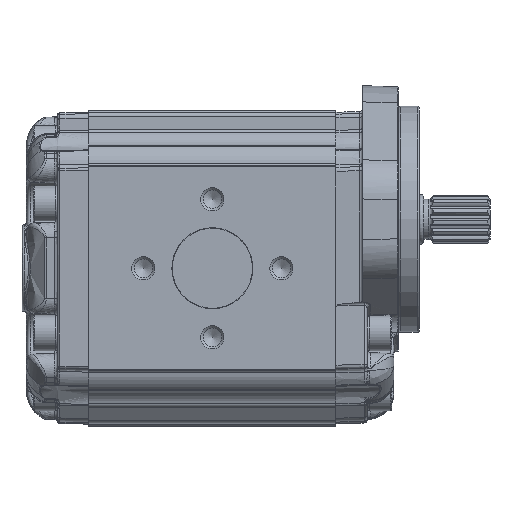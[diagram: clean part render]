
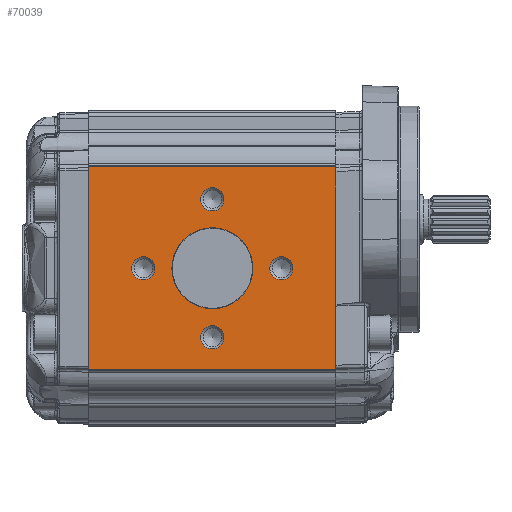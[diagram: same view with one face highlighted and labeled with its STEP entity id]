
A CAD part, left-side view. The second image highlights one B-rep face of the part: STEP entity #70039.
In plain terms, the highlighted planar face has unit normal (-1, 0, 0).
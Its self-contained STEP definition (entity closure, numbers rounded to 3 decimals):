
#8110=LINE('',#122450,#10124);
#8121=LINE('',#122534,#10135);
#8167=LINE('',#122700,#10181);
#8168=LINE('',#122701,#10182);
#10124=VECTOR('',#77540,1000.);
#10135=VECTOR('',#77615,1000.);
#10181=VECTOR('',#77793,1000.);
#10182=VECTOR('',#77794,1000.);
#16511=ORIENTED_EDGE('',*,*,#29302,.T.);
#16512=ORIENTED_EDGE('',*,*,#29303,.T.);
#16513=ORIENTED_EDGE('',*,*,#29304,.T.);
#16514=ORIENTED_EDGE('',*,*,#29305,.T.);
#16515=ORIENTED_EDGE('',*,*,#29306,.T.);
#16516=ORIENTED_EDGE('',*,*,#29177,.F.);
#16517=ORIENTED_EDGE('',*,*,#29307,.T.);
#16518=ORIENTED_EDGE('',*,*,#29219,.F.);
#16519=ORIENTED_EDGE('',*,*,#29308,.T.);
#29177=EDGE_CURVE('',#35902,#35903,#8110,.T.);
#29219=EDGE_CURVE('',#35944,#35945,#8121,.T.);
#29302=EDGE_CURVE('',#35993,#35993,#39788,.F.);
#29303=EDGE_CURVE('',#35994,#35994,#39789,.F.);
#29304=EDGE_CURVE('',#35995,#35995,#39790,.F.);
#29305=EDGE_CURVE('',#35996,#35996,#39791,.F.);
#29306=EDGE_CURVE('',#35997,#35997,#39792,.F.);
#29307=EDGE_CURVE('',#35902,#35945,#8167,.F.);
#29308=EDGE_CURVE('',#35944,#35903,#8168,.F.);
#35902=VERTEX_POINT('',#122449);
#35903=VERTEX_POINT('',#122451);
#35944=VERTEX_POINT('',#122535);
#35945=VERTEX_POINT('',#122536);
#35993=VERTEX_POINT('',#122691);
#35994=VERTEX_POINT('',#122693);
#35995=VERTEX_POINT('',#122695);
#35996=VERTEX_POINT('',#122697);
#35997=VERTEX_POINT('',#122699);
#39788=CIRCLE('',#73307,5.188);
#39789=CIRCLE('',#73308,5.188);
#39790=CIRCLE('',#73309,5.188);
#39791=CIRCLE('',#73310,5.188);
#39792=CIRCLE('',#73311,18.2);
#41130=EDGE_LOOP('',(#16511));
#41131=EDGE_LOOP('',(#16512));
#41132=EDGE_LOOP('',(#16513));
#41133=EDGE_LOOP('',(#16514));
#41134=EDGE_LOOP('',(#16515));
#41135=EDGE_LOOP('',(#16516,#16517,#16518,#16519));
#44489=FACE_BOUND('',#41130,.T.);
#44490=FACE_BOUND('',#41131,.T.);
#44491=FACE_BOUND('',#41132,.T.);
#44492=FACE_BOUND('',#41133,.T.);
#44493=FACE_BOUND('',#41134,.T.);
#44494=FACE_BOUND('',#41135,.T.);
#46925=PLANE('',#73306);
#70039=ADVANCED_FACE('',(#44489,#44490,#44491,#44492,#44493,#44494),#46925,
 .T.);
#73306=AXIS2_PLACEMENT_3D('',#122689,#77781,#77782);
#73307=AXIS2_PLACEMENT_3D('',#122690,#77783,#77784);
#73308=AXIS2_PLACEMENT_3D('',#122692,#77785,#77786);
#73309=AXIS2_PLACEMENT_3D('',#122694,#77787,#77788);
#73310=AXIS2_PLACEMENT_3D('',#122696,#77789,#77790);
#73311=AXIS2_PLACEMENT_3D('',#122698,#77791,#77792);
#77540=DIRECTION('',(0.,0.,1.));
#77615=DIRECTION('',(0.,0.,-1.));
#77781=DIRECTION('',(-1.,0.,0.));
#77782=DIRECTION('',(0.,0.,-1.));
#77783=DIRECTION('',(-1.,0.,0.));
#77784=DIRECTION('',(0.,0.,-1.));
#77785=DIRECTION('',(-1.,0.,0.));
#77786=DIRECTION('',(0.,0.,-1.));
#77787=DIRECTION('',(-1.,0.,0.));
#77788=DIRECTION('',(0.,0.,-1.));
#77789=DIRECTION('',(-1.,0.,0.));
#77790=DIRECTION('',(0.,0.,-1.));
#77791=DIRECTION('',(-1.,0.,0.));
#77792=DIRECTION('',(0.,0.,-1.));
#77793=DIRECTION('',(0.,1.,0.));
#77794=DIRECTION('',(0.,-1.,0.));
#122449=CARTESIAN_POINT('',(-57.5,111.,-45.5));
#122450=CARTESIAN_POINT('',(-57.5,111.,-91.388));
#122451=CARTESIAN_POINT('',(-57.5,111.,45.5));
#122534=CARTESIAN_POINT('',(-57.5,0.,44.978));
#122535=CARTESIAN_POINT('',(-57.5,0.,45.5));
#122536=CARTESIAN_POINT('',(-57.5,0.,-45.5));
#122689=CARTESIAN_POINT('',(-57.5,-127.87,-91.388));
#122690=CARTESIAN_POINT('',(-57.5,55.5,-31.));
#122691=CARTESIAN_POINT('',(-57.5,55.5,-36.188));
#122692=CARTESIAN_POINT('',(-57.5,24.5,0.));
#122693=CARTESIAN_POINT('',(-57.5,24.5,-5.188));
#122694=CARTESIAN_POINT('',(-57.5,55.5,31.));
#122695=CARTESIAN_POINT('',(-57.5,55.5,25.812));
#122696=CARTESIAN_POINT('',(-57.5,86.5,0.));
#122697=CARTESIAN_POINT('',(-57.5,86.5,-5.188));
#122698=CARTESIAN_POINT('',(-57.5,55.5,0.));
#122699=CARTESIAN_POINT('',(-57.5,55.5,-18.2));
#122700=CARTESIAN_POINT('',(-57.5,-127.87,-45.5));
#122701=CARTESIAN_POINT('',(-57.5,-127.87,45.5));
